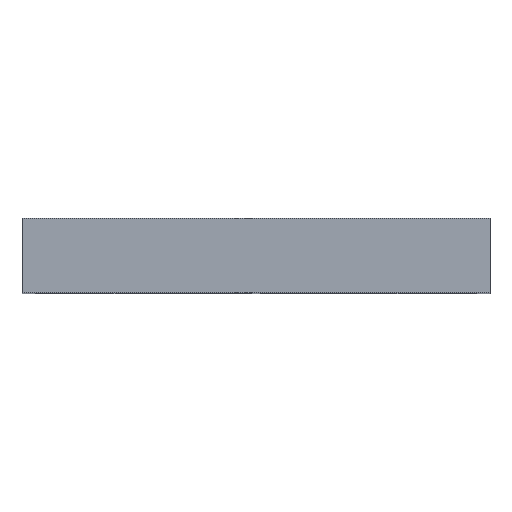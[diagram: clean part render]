
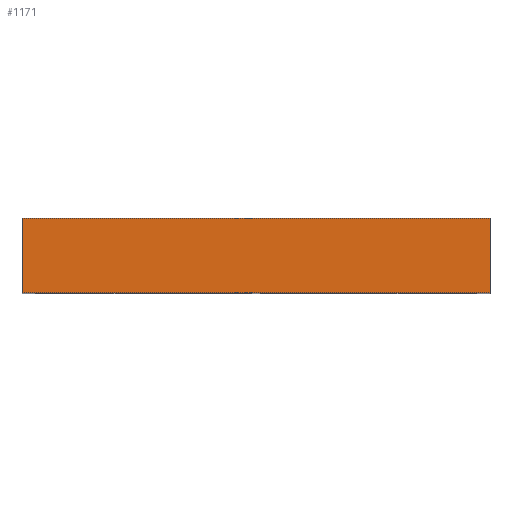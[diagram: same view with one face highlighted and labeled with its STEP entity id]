
A CAD part, top view. The second image highlights one B-rep face of the part: STEP entity #1171.
In plain terms, the highlighted planar face has unit normal (0, 0, 1).
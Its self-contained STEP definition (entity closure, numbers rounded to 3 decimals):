
#29 = LINE ( 'NONE', #919, #36 ) ;
#36 = VECTOR ( 'NONE', #920, 1000. ) ;
#39 = FACE_OUTER_BOUND ( 'NONE', #78, .T. ) ;
#78 = EDGE_LOOP ( 'NONE', ( #158, #115, #114, #113 ) ) ;
#113 = ORIENTED_EDGE ( 'NONE', *, *, #625, .T. ) ;
#114 = ORIENTED_EDGE ( 'NONE', *, *, #637, .F. ) ;
#115 = ORIENTED_EDGE ( 'NONE', *, *, #535, .F. ) ;
#158 = ORIENTED_EDGE ( 'NONE', *, *, #589, .T. ) ;
#387 = LINE ( 'NONE', #790, #400 ) ;
#400 = VECTOR ( 'NONE', #795, 1000. ) ;
#452 = LINE ( 'NONE', #846, #453 ) ;
#453 = VECTOR ( 'NONE', #847, 1000. ) ;
#478 = LINE ( 'NONE', #895, #479 ) ;
#479 = VECTOR ( 'NONE', #896, 1000. ) ;
#535 = EDGE_CURVE ( 'NONE', #702, #657, #387, .T. ) ;
#575 = AXIS2_PLACEMENT_3D ( 'NONE', #1112, #1118, #1119 ) ;
#589 = EDGE_CURVE ( 'NONE', #655, #657, #452, .T. ) ;
#625 = EDGE_CURVE ( 'NONE', #701, #655, #478, .T. ) ;
#637 = EDGE_CURVE ( 'NONE', #701, #702, #29, .T. ) ;
#655 = VERTEX_POINT ( 'NONE', #924 ) ;
#657 = VERTEX_POINT ( 'NONE', #925 ) ;
#701 = VERTEX_POINT ( 'NONE', #968 ) ;
#702 = VERTEX_POINT ( 'NONE', #969 ) ;
#790 = CARTESIAN_POINT ( 'NONE',  ( 204., 65., 264.5 ) ) ;
#795 = DIRECTION ( 'NONE',  ( 0., -1., 0. ) ) ;
#846 = CARTESIAN_POINT ( 'NONE',  ( -204., 0., 264.5 ) ) ;
#847 = DIRECTION ( 'NONE',  ( 1., 0., 0. ) ) ;
#895 = CARTESIAN_POINT ( 'NONE',  ( -204., 65., 264.5 ) ) ;
#896 = DIRECTION ( 'NONE',  ( 0., -1., 0. ) ) ;
#919 = CARTESIAN_POINT ( 'NONE',  ( -204., 65., 264.5 ) ) ;
#920 = DIRECTION ( 'NONE',  ( 1., 0., 0. ) ) ;
#924 = CARTESIAN_POINT ( 'NONE',  ( -204., 0., 264.5 ) ) ;
#925 = CARTESIAN_POINT ( 'NONE',  ( 204., 0., 264.5 ) ) ;
#968 = CARTESIAN_POINT ( 'NONE',  ( -204., 65., 264.5 ) ) ;
#969 = CARTESIAN_POINT ( 'NONE',  ( 204., 65., 264.5 ) ) ;
#1109 = PLANE ( 'NONE',  #575 ) ;
#1112 = CARTESIAN_POINT ( 'NONE',  ( -204., 65., 264.5 ) ) ;
#1118 = DIRECTION ( 'NONE',  ( 0., 0., -1. ) ) ;
#1119 = DIRECTION ( 'NONE',  ( -1., 0., 0. ) ) ;
#1171 = ADVANCED_FACE ( 'NONE', ( #39 ), #1109, .F. ) ;
